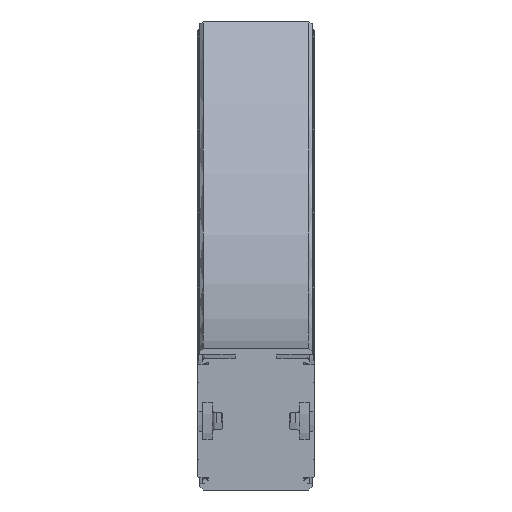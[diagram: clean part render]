
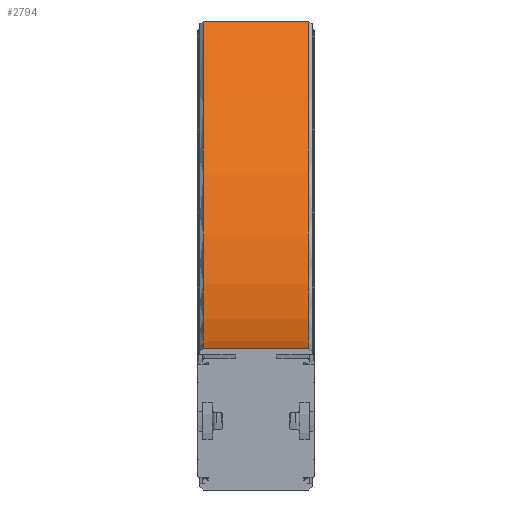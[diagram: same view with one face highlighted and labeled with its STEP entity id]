
A CAD part, front view. The second image highlights one B-rep face of the part: STEP entity #2794.
In plain terms, the highlighted cylindrical face has radius 360 mm (diameter 720 mm), a partial arc.
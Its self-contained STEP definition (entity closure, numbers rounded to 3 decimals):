
#88=CYLINDRICAL_SURFACE('',#3073,360.);
#298=CIRCLE('',#3072,360.);
#299=CIRCLE('',#3074,360.);
#463=FACE_OUTER_BOUND('',#617,.T.);
#617=EDGE_LOOP('',(#2255,#2256,#2257,#2258));
#805=LINE('',#9301,#1011);
#806=LINE('',#9303,#1012);
#1011=VECTOR('',#3758,10.);
#1012=VECTOR('',#3759,10.);
#1277=VERTEX_POINT('',#9294);
#1278=VERTEX_POINT('',#9296);
#1279=VERTEX_POINT('',#9300);
#1280=VERTEX_POINT('',#9302);
#1665=EDGE_CURVE('',#1277,#1278,#298,.T.);
#1666=EDGE_CURVE('',#1279,#1277,#805,.T.);
#1667=EDGE_CURVE('',#1280,#1278,#806,.T.);
#1668=EDGE_CURVE('',#1279,#1280,#299,.T.);
#2255=ORIENTED_EDGE('',*,*,#1666,.T.);
#2256=ORIENTED_EDGE('',*,*,#1665,.T.);
#2257=ORIENTED_EDGE('',*,*,#1667,.F.);
#2258=ORIENTED_EDGE('',*,*,#1668,.F.);
#2794=ADVANCED_FACE('',(#463),#88,.F.);
#3072=AXIS2_PLACEMENT_3D('',#9298,#3754,#3755);
#3073=AXIS2_PLACEMENT_3D('',#9299,#3756,#3757);
#3074=AXIS2_PLACEMENT_3D('',#9304,#3760,#3761);
#3754=DIRECTION('center_axis',(1.,0.,0.));
#3755=DIRECTION('ref_axis',(0.,0.,-1.));
#3756=DIRECTION('center_axis',(1.,0.,0.));
#3757=DIRECTION('ref_axis',(0.,0.,-1.));
#3758=DIRECTION('',(1.,0.,0.));
#3759=DIRECTION('',(1.,0.,0.));
#3760=DIRECTION('center_axis',(1.,0.,0.));
#3761=DIRECTION('ref_axis',(0.,0.,-1.));
#9294=CARTESIAN_POINT('',(29.,0.,40.));
#9296=CARTESIAN_POINT('',(29.,311.769,220.));
#9298=CARTESIAN_POINT('Origin',(29.,0.,400.));
#9299=CARTESIAN_POINT('Origin',(-14.5,0.,400.));
#9300=CARTESIAN_POINT('',(-29.,0.,40.));
#9301=CARTESIAN_POINT('',(-29.,0.,40.));
#9302=CARTESIAN_POINT('',(-29.,311.769,220.));
#9303=CARTESIAN_POINT('',(-29.,311.769,220.));
#9304=CARTESIAN_POINT('Origin',(-29.,0.,400.));
